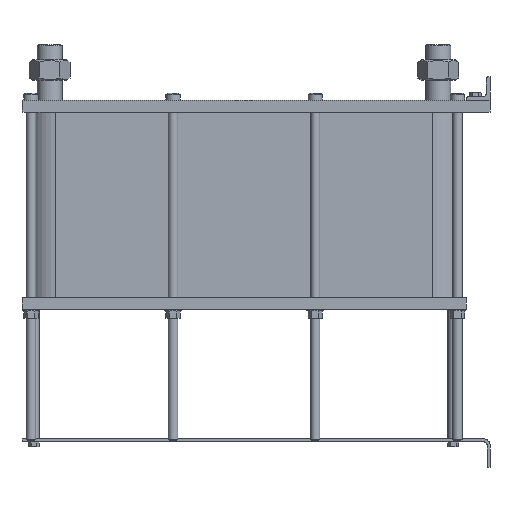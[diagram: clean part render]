
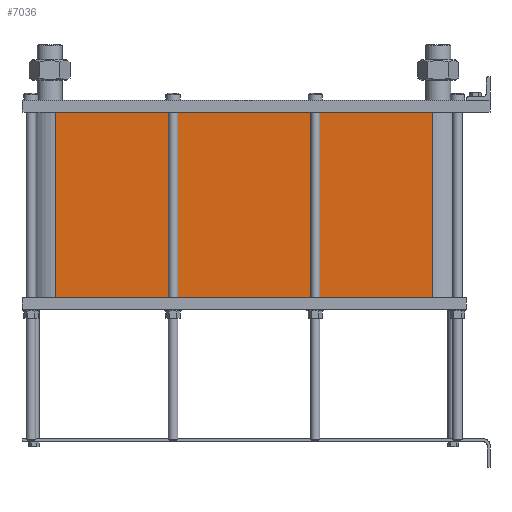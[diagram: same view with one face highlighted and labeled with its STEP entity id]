
A CAD part, left-side view. The second image highlights one B-rep face of the part: STEP entity #7036.
In plain terms, the highlighted planar face has unit normal (-1, 0, 0).
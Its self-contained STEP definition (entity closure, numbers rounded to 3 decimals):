
#999=LINE('',#15640,#1553);
#1031=LINE('',#15723,#1585);
#1032=LINE('',#15726,#1586);
#1033=LINE('',#15727,#1587);
#1553=VECTOR('',#9658,10.);
#1585=VECTOR('',#9736,10.);
#1586=VECTOR('',#9741,10.);
#1587=VECTOR('',#9742,10.);
#2117=FACE_OUTER_BOUND('',#2671,.T.);
#2671=EDGE_LOOP('',(#6246,#6247,#6248,#6249));
#3527=VERTEX_POINT('',#15634);
#3529=VERTEX_POINT('',#15638);
#3556=VERTEX_POINT('',#15720);
#3557=VERTEX_POINT('',#15722);
#4425=EDGE_CURVE('',#3529,#3527,#999,.T.);
#4466=EDGE_CURVE('',#3557,#3556,#1031,.T.);
#4468=EDGE_CURVE('',#3527,#3556,#1032,.T.);
#4469=EDGE_CURVE('',#3557,#3529,#1033,.T.);
#6246=ORIENTED_EDGE('',*,*,#4468,.F.);
#6247=ORIENTED_EDGE('',*,*,#4425,.F.);
#6248=ORIENTED_EDGE('',*,*,#4469,.F.);
#6249=ORIENTED_EDGE('',*,*,#4466,.T.);
#6608=PLANE('',#7812);
#7036=ADVANCED_FACE('',(#2117),#6608,.T.);
#7812=AXIS2_PLACEMENT_3D('',#15725,#9739,#9740);
#9658=DIRECTION('',(0.,0.,-1.));
#9736=DIRECTION('',(0.,0.,-1.));
#9739=DIRECTION('center_axis',(-1.,0.,0.));
#9740=DIRECTION('ref_axis',(0.,1.,0.));
#9741=DIRECTION('',(0.,1.,0.));
#9742=DIRECTION('',(0.,-1.,0.));
#15634=CARTESIAN_POINT('',(-72.,97.5,-313.1));
#15638=CARTESIAN_POINT('',(-72.,97.5,0.));
#15640=CARTESIAN_POINT('',(-72.,97.5,0.));
#15720=CARTESIAN_POINT('',(-72.,733.5,-313.1));
#15722=CARTESIAN_POINT('',(-72.,733.5,0.));
#15723=CARTESIAN_POINT('',(-72.,733.5,0.));
#15725=CARTESIAN_POINT('Origin',(-72.,97.5,0.));
#15726=CARTESIAN_POINT('',(-72.,256.5,-313.1));
#15727=CARTESIAN_POINT('',(-72.,733.5,0.));
